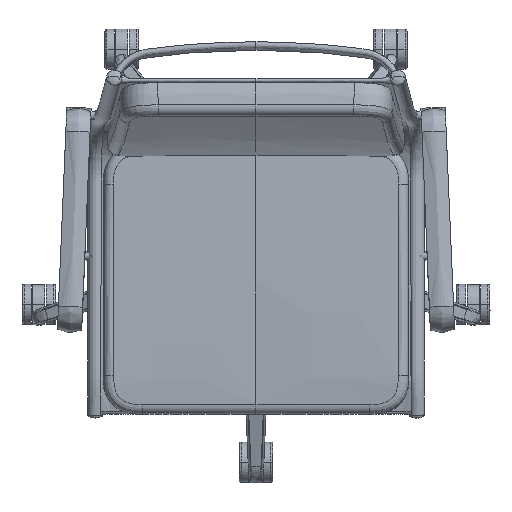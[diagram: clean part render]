
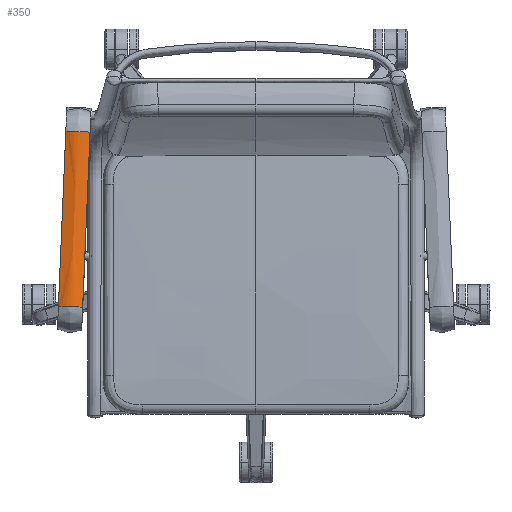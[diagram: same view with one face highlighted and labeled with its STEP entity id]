
A CAD part, top view. The second image highlights one B-rep face of the part: STEP entity #350.
In plain terms, the highlighted free-form (B-spline) face has degree [2, 3] with [3, 4] control points.
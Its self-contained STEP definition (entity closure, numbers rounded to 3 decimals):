
#350=ADVANCED_FACE('',(#815),#6659,.T.);
#815=FACE_OUTER_BOUND('',#1283,.T.);
#1283=EDGE_LOOP('',(#2193,#2194,#2195,#2196));
#2193=ORIENTED_EDGE('',*,*,#3938,.T.);
#2194=ORIENTED_EDGE('',*,*,#3942,.F.);
#2195=ORIENTED_EDGE('',*,*,#3941,.F.);
#2196=ORIENTED_EDGE('',*,*,#3940,.F.);
#3938=EDGE_CURVE('',#6011,#6012,#4900,.T.);
#3940=EDGE_CURVE('',#6011,#6013,#4902,.T.);
#3941=EDGE_CURVE('',#6013,#6014,#4903,.T.);
#3942=EDGE_CURVE('',#6014,#6012,#4904,.T.);
#4900=(
BOUNDED_CURVE()
B_SPLINE_CURVE(2,(#17797,#17798,#17799),.UNSPECIFIED.,.F.,.F.)
B_SPLINE_CURVE_WITH_KNOTS((3,3),(0.,37.482),.UNSPECIFIED.)
CURVE()
GEOMETRIC_REPRESENTATION_ITEM()
RATIONAL_B_SPLINE_CURVE((1.,0.882,1.))
REPRESENTATION_ITEM('')
);
#4902=(
BOUNDED_CURVE()
B_SPLINE_CURVE(3,(#17811,#17812,#17813,#17814),.UNSPECIFIED.,.F.,.F.)
B_SPLINE_CURVE_WITH_KNOTS((4,4),(0.,260.717),.UNSPECIFIED.)
CURVE()
GEOMETRIC_REPRESENTATION_ITEM()
RATIONAL_B_SPLINE_CURVE((1.,1.,1.,1.))
REPRESENTATION_ITEM('')
);
#4903=(
BOUNDED_CURVE()
B_SPLINE_CURVE(2,(#17815,#17816,#17817),.UNSPECIFIED.,.F.,.F.)
B_SPLINE_CURVE_WITH_KNOTS((3,3),(0.,37.482),.UNSPECIFIED.)
CURVE()
GEOMETRIC_REPRESENTATION_ITEM()
RATIONAL_B_SPLINE_CURVE((1.,0.882,1.))
REPRESENTATION_ITEM('')
);
#4904=(
BOUNDED_CURVE()
B_SPLINE_CURVE(3,(#17818,#17819,#17820,#17821),.UNSPECIFIED.,.F.,.F.)
B_SPLINE_CURVE_WITH_KNOTS((4,4),(-260.717,0.),.UNSPECIFIED.)
CURVE()
GEOMETRIC_REPRESENTATION_ITEM()
RATIONAL_B_SPLINE_CURVE((1.,1.,1.,1.))
REPRESENTATION_ITEM('')
);
#6011=VERTEX_POINT('',#17569);
#6012=VERTEX_POINT('',#17570);
#6013=VERTEX_POINT('',#17571);
#6014=VERTEX_POINT('',#17572);
#6659=(
BOUNDED_SURFACE()
B_SPLINE_SURFACE(2,3,((#17301,#17302,#17303,#17304),(#17305,#17306,#17307,
#17308),(#17309,#17310,#17311,#17312)),.UNSPECIFIED.,.F.,.F.,.F.)
B_SPLINE_SURFACE_WITH_KNOTS((3,3),(4,4),(0.,37.482),(0.,260.717),
 .UNSPECIFIED.)
GEOMETRIC_REPRESENTATION_ITEM()
RATIONAL_B_SPLINE_SURFACE(((1.,1.,1.,1.),(0.882,0.882,
0.882,0.882),(1.,1.,1.,1.)))
REPRESENTATION_ITEM('')
SURFACE()
);
#17301=CARTESIAN_POINT('',(-293.384,-89.849,688.543));
#17302=CARTESIAN_POINT('',(-289.712,-3.192,683.093));
#17303=CARTESIAN_POINT('',(-286.041,83.465,677.644));
#17304=CARTESIAN_POINT('',(-282.369,170.122,672.195));
#17305=CARTESIAN_POINT('',(-275.382,-90.008,698.138));
#17306=CARTESIAN_POINT('',(-271.711,-3.351,692.689));
#17307=CARTESIAN_POINT('',(-268.039,83.306,687.24));
#17308=CARTESIAN_POINT('',(-264.367,169.963,681.791));
#17309=CARTESIAN_POINT('',(-257.416,-91.371,688.572));
#17310=CARTESIAN_POINT('',(-253.744,-4.714,683.123));
#17311=CARTESIAN_POINT('',(-250.073,81.943,677.673));
#17312=CARTESIAN_POINT('',(-246.401,168.6,672.224));
#17569=CARTESIAN_POINT('',(-293.384,-89.849,688.543));
#17570=CARTESIAN_POINT('',(-257.416,-91.371,688.572));
#17571=CARTESIAN_POINT('',(-282.369,170.122,672.195));
#17572=CARTESIAN_POINT('',(-246.401,168.6,672.224));
#17797=CARTESIAN_POINT('',(-293.384,-89.849,688.543));
#17798=CARTESIAN_POINT('',(-275.382,-90.008,698.138));
#17799=CARTESIAN_POINT('',(-257.416,-91.371,688.572));
#17811=CARTESIAN_POINT('',(-293.384,-89.849,688.543));
#17812=CARTESIAN_POINT('',(-289.712,-3.192,683.093));
#17813=CARTESIAN_POINT('',(-286.041,83.465,677.644));
#17814=CARTESIAN_POINT('',(-282.369,170.122,672.195));
#17815=CARTESIAN_POINT('',(-282.369,170.122,672.195));
#17816=CARTESIAN_POINT('',(-264.367,169.963,681.791));
#17817=CARTESIAN_POINT('',(-246.401,168.6,672.224));
#17818=CARTESIAN_POINT('',(-246.401,168.6,672.224));
#17819=CARTESIAN_POINT('',(-250.073,81.943,677.673));
#17820=CARTESIAN_POINT('',(-253.744,-4.714,683.123));
#17821=CARTESIAN_POINT('',(-257.416,-91.371,688.572));
